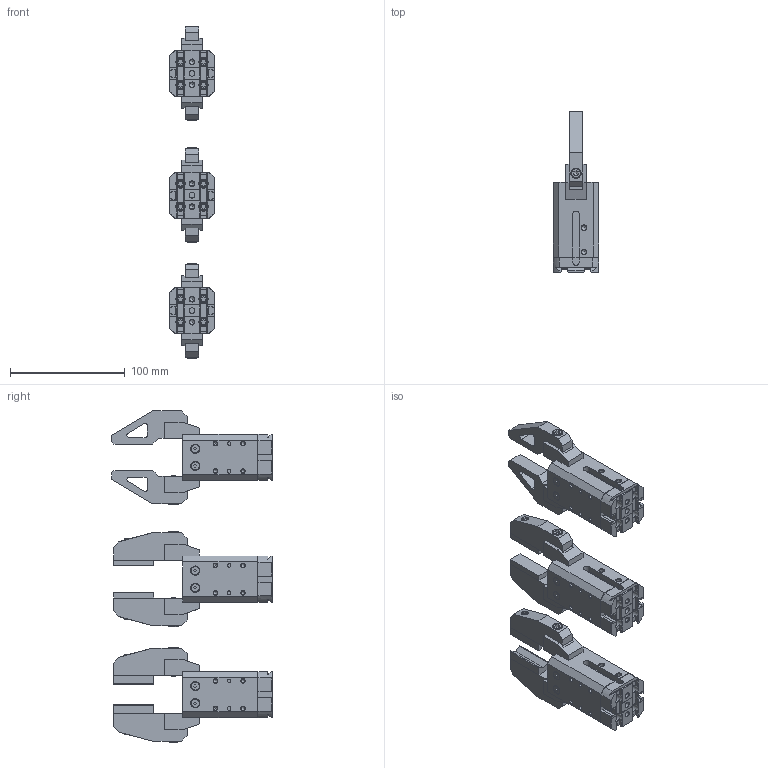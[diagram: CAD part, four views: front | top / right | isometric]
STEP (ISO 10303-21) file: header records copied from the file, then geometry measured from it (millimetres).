
FILE_DESCRIPTION(/* description */ ('Grippers with 2 parallel jaws series P1K-'),/* implementation_level */ '2;1');
FILE_NAME(/* name */ 'W1550200001K(1)__ASSIEME.stp',/* time_stamp */ '2025-02-14T13:24:26+01:00',/* author */ ('Ryzen5700u'),/* organization */ ('METALWORK'),/* preprocessor_version */ 'ST-DEVELOPER v20',/* originating_system */ 'Autodesk Inventor 2025',/* authorisation */ '');
FILE_SCHEMA (('AUTOMOTIVE_DESIGN { 1 0 10303 214 3 1 1 }'));
Length unit declared in the file: millimetre
Products named in the file (13): W1550200001K(1)__2; dito_estraibile; dito2; dito2_MIR; AS 1420 - 1973 - M3 x 12; dito_estraibile2; W1550200001K(1)//; V_lock_for_W1550200001; P1K-20(1)_2; P1K-20(1); dito; dito_MIR; AS 1420 - 1973 - M5 x 20
Assembly tree (33 placements, depth 3):
  W1550200001K(1)__2
    P1K-20(1)  x4
    V_lock_for_W1550200001  x2
    P1K-20(1)_2  x2
    AS 1420 - 1973 - M5 x 20  x4
    dito2  x2
    dito_estraibile  x2
    AS 1420 - 1973 - M3 x 12  x4
    dito2_MIR  x2
    dito_estraibile2  x2
    W1550200001K(1)//
      P1K-20(1)  x2
      V_lock_for_W1550200001
      P1K-20(1)_2
      dito
      dito_MIR
      AS 1420 - 1973 - M5 x 20  x2
Bounding box: 40 x 139.75 x 288.89 mm (x, y, z)
Volume: 448106.3 mm3; surface area: 127472 mm2
Topology: 32 solids, 32 shells, 1887 faces, 4872 edges, 3199 vertices
Faces by surface type: plane 1169, bspline 297, cylinder 246, cone 143, torus 32
Full cylindrical faces by diameter (mm): 3 x10, 3.242 x36, 3.4 x8, 4.134 x12, 4.917 x6, 5 x9, 5.5 x10, 6.5 x4, 7 x24, 8 x24, 8.5 x6, 9 x6, 22 x3
Entity records: 21032 total; most frequent: CARTESIAN_POINT 5032, ORIENTED_EDGE 3324, DIRECTION 2864, EDGE_CURVE 1662, LINE 1174, VECTOR 1174, VERTEX_POINT 1105, AXIS2_PLACEMENT_3D 845
